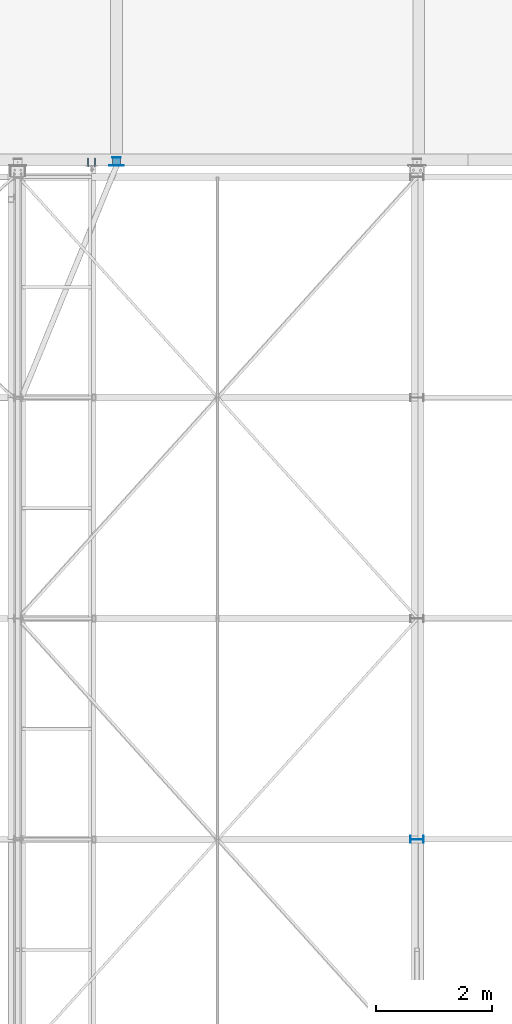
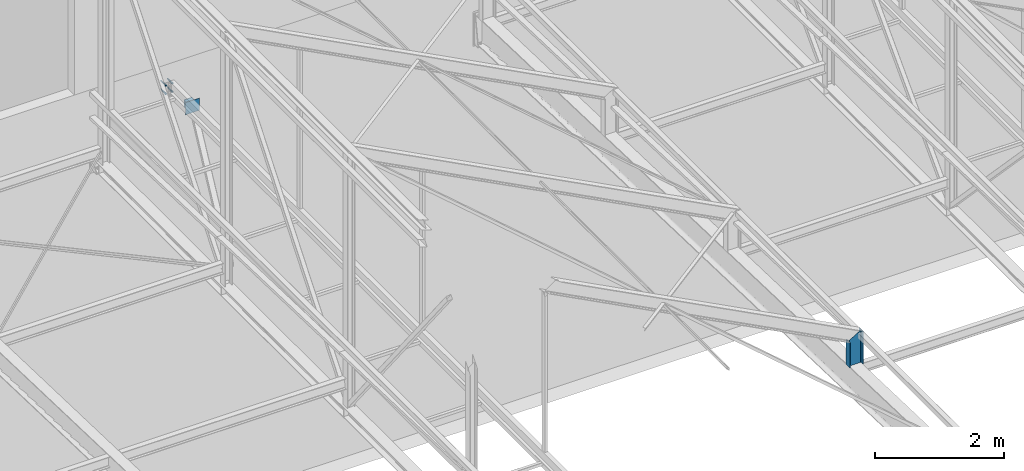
# One storey, part 78 of 123: 4 discrete accessories, 2 mechanical fasteners, 4 elements without a shape of their own.
"""IFC2X3 building model written with IfcOpenShell, lengths in millimetres."""

from ifc_helpers import new_model, si_unit, frame, origin_with_axes, origin_2d_with_axis, place, context, subcontext, project, spatial, polyline, circle, i_section, outline, extrude, clip, halfspace, source, transform, mapped, material, type_object, element, aggregate, save


model = new_model("IFC2X3")

# Units and contexts
model_context = context("Model", 3, precision=1e-05, world=origin_with_axes())
body_context = subcontext(model_context, "Body", "Model", "MODEL_VIEW")
ifc_project = project(units=[si_unit("LENGTHUNIT", "METRE", prefix="MILLI"), si_unit("AREAUNIT", "SQUARE_METRE"), si_unit("VOLUMEUNIT", "CUBIC_METRE"), si_unit("MASSUNIT", "GRAM", prefix="KILO"), si_unit("TIMEUNIT", "SECOND"), si_unit("PLANEANGLEUNIT", "RADIAN"), si_unit("SOLIDANGLEUNIT", "STERADIAN"), si_unit("THERMODYNAMICTEMPERATUREUNIT", "DEGREE_CELSIUS"), si_unit("LUMINOUSINTENSITYUNIT", "LUMEN")], contexts=[model_context])

# Site, building, storey
site_placement = place(None, origin_with_axes())
site = spatial("IfcSite", under=ifc_project, at=site_placement, Name="Undefined", CompositionType="ELEMENT")
building_placement = place(site_placement, origin_with_axes())
building = spatial("IfcBuilding", under=site, at=building_placement, Name="Undefined", CompositionType="ELEMENT")
storey_placement = place(building_placement, origin_with_axes())
storey = spatial("IfcBuildingStorey", under=building, at=storey_placement, Name="Undefined", CompositionType="ELEMENT", Elevation=0.0)

# Assembly, discrete accessories
assembly_1_placement = place(storey_placement, origin_with_axes())
assembly_1 = element("IfcElementAssembly", 1, at=assembly_1_placement, inside=storey, Name="Steel Assembly", AssemblyPlace="NOTDEFINED", PredefinedType="RIGID_FRAME")
ifc_material_1 = material(Name="STEEL/S235-E24")
discrete_accessory_type_1 = type_object("IfcDiscreteAccessoryType", Name="PLAT")
discrete_accessory_1_placement = place(assembly_1_placement, frame((14380.0000018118, 15532.9999999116, 7658.2000000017), z_axis=(0.0, 1.0, 0.0), x_axis=(0.0, 0.0, -1.0)))
discrete_accessory_1 = element("IfcDiscreteAccessory", 2, at=discrete_accessory_1_placement, type_object=discrete_accessory_type_1, material=ifc_material_1, Name="PLAT", ObjectType="PL12*140", context=body_context, shape_type="SweptSolid", body=[
    extrude(outline(polyline([(132.999999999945, 70.0), (132.999999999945, -70.0), (0.0, -70.0), (0.0, 70.0), (132.999999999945, 70.0)])), frame((0.0, 0.0, -6.0), z_axis=(0.0, 0.0, 1.0), x_axis=(1.0, 0.0, 0.0)), (0.0, 0.0, 1.0), 12.0),
])
ifc_material_2 = material(Name="STEEL/S275-E28")
discrete_accessory_type_2 = type_object("IfcDiscreteAccessoryType", Name="BECHE")
discrete_accessory_2_placement = place(assembly_1_placement, frame((14380.0000018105, 15401.9999999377, 7591.7), z_axis=(0.0, 0.0, 1.0), x_axis=(0.0, 1.0, 0.0)))
discrete_accessory_2 = element("IfcDiscreteAccessory", 3, at=discrete_accessory_2_placement, type_object=discrete_accessory_type_2, material=ifc_material_2, Name="BECHE", ObjectType="HEA140", context=body_context, shape_type="SweptSolid", body=[
    extrude(i_section(OverallWidth=140.0, OverallDepth=133.0, WebThickness=5.5, FlangeThickness=8.5, FilletRadius=12.0, at=origin_2d_with_axis()), frame((124.999999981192, 0.0, 0.0), z_axis=(-1.0, 0.0, 0.0), x_axis=(0.0, -1.0, 0.0)), (0.0, 0.0, 1.0), 125.0),
])
discrete_accessory_type_3 = type_object("IfcDiscreteAccessoryType", Name="PRESCELLEMENT")
discrete_accessory_3_placement = place(assembly_1_placement, frame((14380.0000018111, 15395.999999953, 7706.7), z_axis=(0.0, 1.0, 0.0), x_axis=(0.0, 0.0, -1.0)))
discrete_accessory_3 = element("IfcDiscreteAccessory", 4, at=discrete_accessory_3_placement, type_object=discrete_accessory_type_3, material=ifc_material_1, Name="PRESCELLEMENT", ObjectType="PL12*250", context=body_context, shape_type="SweptSolid", body=[
    extrude(outline(polyline([(230.0, 125.0), (230.0, -125.0), (0.0, -125.0), (0.0, 125.0), (230.0, 125.0)])), frame((0.0, 0.0, -6.0), z_axis=(0.0, 0.0, 1.0), x_axis=(1.0, 0.0, 0.0)), (0.0, 0.0, 1.0), 12.0),
])
aggregate(assembly_1, [discrete_accessory_1, discrete_accessory_2, discrete_accessory_3])

# Assembly, mechanical fastener
assembly_2_placement = place(storey_placement, origin_with_axes())
assembly_2 = element("IfcElementAssembly", 5, at=assembly_2_placement, inside=storey, Name="Steel Assembly", AssemblyPlace="NOTDEFINED", PredefinedType="RIGID_FRAME")
ifc_material_3 = material(Name="INOX_A4")
discrete_accessory_type_4 = type_object("IfcDiscreteAccessoryType", Name="Bolt assembly")
shared_shape = source(origin_with_axes(), body_context, "Body", "SweptSolid", [
    extrude(circle(Radius=9.0, at=origin_2d_with_axis()), frame((0.0, -9.99988171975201, 0.0), z_axis=(0.0, 1.0, 0.0), x_axis=(1.0, 0.0, 0.0)), (0.0, 0.0, 1.0), 10.1),
    extrude(outline(polyline([(13.85640646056, 0.0), (6.92820323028, 12.0000000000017), (-6.92820323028, 12.0000000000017), (-13.85640646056, 0.0), (-6.92820323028, -12.0000000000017), (6.92820323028, -12.0000000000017), (13.85640646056, 0.0)])), frame((0.0, -16.7998819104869, 0.0), z_axis=(0.0, 1.0, 0.0), x_axis=(1.0, 0.0, 0.0)), (0.0, 0.0, 1.0), 6.8),
    extrude(circle(Radius=8.0, at=origin_2d_with_axis()), frame((0.0, -9.99988171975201, 0.0), z_axis=(0.0, 1.0, 0.0), x_axis=(1.0, 0.0, 0.0)), (0.0, 0.0, 1.0), 146.2),
    extrude(outline(polyline([(13.85640646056, 0.0), (6.92820323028, 12.0000000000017), (-6.92820323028, 12.0000000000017), (-13.85640646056, 0.0), (-6.92820323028, -12.0000000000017), (6.92820323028, -12.0000000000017), (13.85640646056, 0.0)])), frame((0.0, 0.000118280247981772, 0.0), z_axis=(0.0, 1.0, 0.0), x_axis=(1.0, 0.0, 0.0)), (0.0, 0.0, 1.0), 16.0),
])
mechanical_fastener_1_placement = place(assembly_2_placement, frame((13891.4998855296, 15389.9998770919, 8090.00437165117), z_axis=(0.0, 0.0, 1.0), x_axis=(1.0, 0.0, 0.0)))
mechanical_fastener_1 = element("IfcMechanicalFastener", 6, at=mechanical_fastener_1_placement, type_object=discrete_accessory_type_4, material=ifc_material_3, Name="Bolt assembly", NominalDiameter=16.0, NominalLength=146.199996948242, context=body_context, shape_type="MappedRepresentation", body=[
    mapped(shared_shape, transform((0.0, 0.0, -80.0))),
    mapped(shared_shape, transform((0.0, 0.0, 80.0))),
])
aggregate(assembly_2, [mechanical_fastener_1])

assembly_3_placement = place(storey_placement, origin_with_axes())
assembly_3 = element("IfcElementAssembly", 7, at=assembly_3_placement, inside=storey, Name="Steel Assembly", AssemblyPlace="NOTDEFINED", PredefinedType="RIGID_FRAME")
mechanical_fastener_2_placement = place(assembly_3_placement, frame((14007.4998855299, 15389.9998771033, 8090.00437165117), z_axis=(0.0, 0.0, -1.0), x_axis=(-1.0, 0.0, 0.0)))
mechanical_fastener_2 = element("IfcMechanicalFastener", 8, at=mechanical_fastener_2_placement, type_object=discrete_accessory_type_4, material=ifc_material_3, Name="Bolt assembly", NominalDiameter=16.0, NominalLength=146.199996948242, context=body_context, shape_type="MappedRepresentation", body=[
    mapped(shared_shape, transform((0.0, 0.0, -80.0))),
    mapped(shared_shape, transform((0.0, 0.0, 80.0))),
])
aggregate(assembly_3, [mechanical_fastener_2])

# Assembly, discrete accessory
assembly_4_placement = place(storey_placement, origin_with_axes())
assembly_4 = element("IfcElementAssembly", 9, at=assembly_4_placement, inside=storey, Name="Steel Assembly", AssemblyPlace="NOTDEFINED", PredefinedType="RIGID_FRAME")
discrete_accessory_type_5 = type_object("IfcDiscreteAccessoryType", Name="TRAVERSE SHED")
discrete_accessory_4_placement = place(assembly_4_placement, frame((19550.0, 3800.0, 7930.58018928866), z_axis=(0.0, 0.0, 1.0), x_axis=(-1.0, 0.0, 0.0)))
discrete_accessory_4 = element("IfcDiscreteAccessory", 10, at=discrete_accessory_4_placement, type_object=discrete_accessory_type_5, material=ifc_material_2, Name="TRAVERSE SHED", ObjectType="IPE240", context=body_context, shape_type="Clipping", body=[
    clip(extrude(i_section(OverallWidth=120.0, OverallDepth=240.0, WebThickness=6.199999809, FlangeThickness=9.800000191, FilletRadius=15.0, at=origin_2d_with_axis()), frame((0.0, 0.0, 620.146342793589), z_axis=(0.0, 0.0, -1.0), x_axis=(0.0, 1.0, 0.0)), (0.0, 0.0, 1.0), 620.1), halfspace(frame((-120.000000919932, 0.0, 619.419812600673), z_axis=(0.517914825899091, 0.0, 0.855432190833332), x_axis=(0.0, 1.0, 0.0)), False)),
])
aggregate(assembly_4, [discrete_accessory_4])

save(model, "model.ifc")
